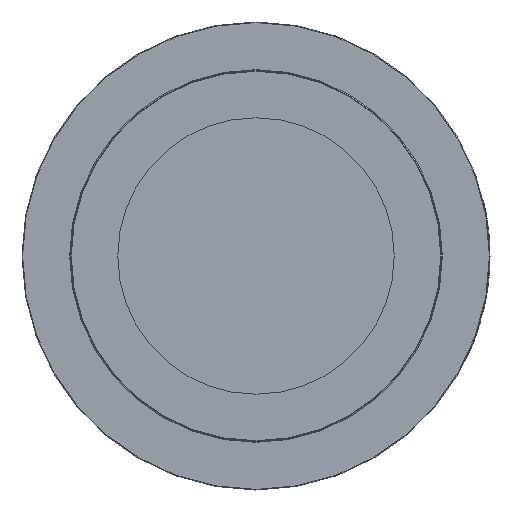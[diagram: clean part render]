
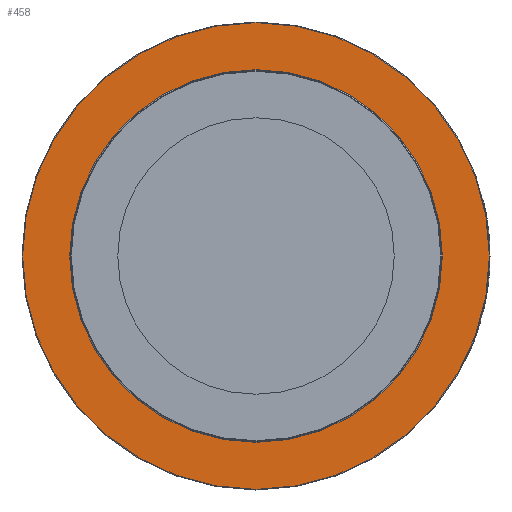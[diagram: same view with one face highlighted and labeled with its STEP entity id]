
A CAD part, left-side view. The second image highlights one B-rep face of the part: STEP entity #458.
In plain terms, the highlighted planar face has unit normal (-1, 0, 0).
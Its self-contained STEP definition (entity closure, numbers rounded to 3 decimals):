
#458 = ADVANCED_FACE( '', ( #1071, #1072 ), #1073, .T. );
#1071 = FACE_OUTER_BOUND( '', #3556, .T. );
#1072 = FACE_BOUND( '', #3557, .T. );
#1073 = PLANE( '', #3558 );
#3556 = EDGE_LOOP( '', ( #6187 ) );
#3557 = EDGE_LOOP( '', ( #6188 ) );
#3558 = AXIS2_PLACEMENT_3D( '', #6189, #6190, #6191 );
#6187 = ORIENTED_EDGE( '', *, *, #7227, .T. );
#6188 = ORIENTED_EDGE( '', *, *, #7191, .F. );
#6189 = CARTESIAN_POINT( '', ( 108.22, 0., 189.992 ) );
#6190 = DIRECTION( '', ( -1., 0., 0. ) );
#6191 = DIRECTION( '', ( 0., 0., 1. ) );
#7191 = EDGE_CURVE( '', #8032, #8032, #8033, .T. );
#7227 = EDGE_CURVE( '', #8097, #8097, #8098, .T. );
#8032 = VERTEX_POINT( '', #9295 );
#8033 = CIRCLE( '', #9296, 151.682 );
#8097 = VERTEX_POINT( '', #9487 );
#8098 = CIRCLE( '', #9488, 189.992 );
#9295 = CARTESIAN_POINT( '', ( 108.22, 0., 151.682 ) );
#9296 = AXIS2_PLACEMENT_3D( '', #13027, #13028, #13029 );
#9487 = CARTESIAN_POINT( '', ( 108.22, 0., 189.992 ) );
#9488 = AXIS2_PLACEMENT_3D( '', #13042, #13043, #13044 );
#13027 = CARTESIAN_POINT( '', ( 108.22, 0., 0. ) );
#13028 = DIRECTION( '', ( -1., 0., 0. ) );
#13029 = DIRECTION( '', ( 0., 0., 1. ) );
#13042 = CARTESIAN_POINT( '', ( 108.22, 0., 0. ) );
#13043 = DIRECTION( '', ( -1., 0., 0. ) );
#13044 = DIRECTION( '', ( 0., 0., 1. ) );
